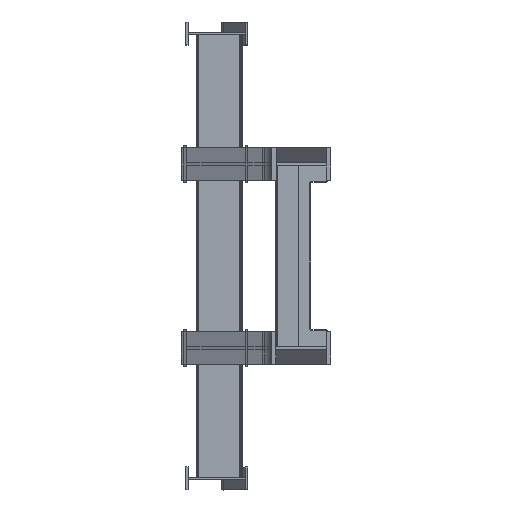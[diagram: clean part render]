
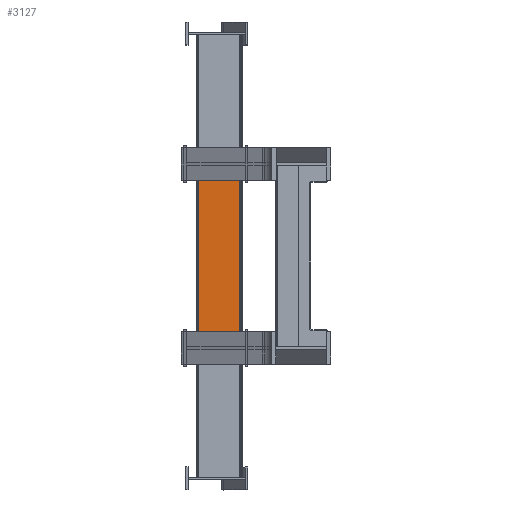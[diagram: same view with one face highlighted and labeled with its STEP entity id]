
A CAD part, front view. The second image highlights one B-rep face of the part: STEP entity #3127.
In plain terms, the highlighted planar face has unit normal (0, -1, 0).
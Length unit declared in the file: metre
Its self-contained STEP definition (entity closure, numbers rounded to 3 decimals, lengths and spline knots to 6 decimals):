
#3127 = ADVANCED_FACE( '', ( #5907 ), #5908, .T. );
#5907 = FACE_OUTER_BOUND( '', #10245, .T. );
#5908 = PLANE( '', #10246 );
#10245 = EDGE_LOOP( '', ( #21044, #21045, #21046, #21047 ) );
#10246 = AXIS2_PLACEMENT_3D( '', #21048, #21049, #21050 );
#21044 = ORIENTED_EDGE( '', *, *, #25091, .T. );
#21045 = ORIENTED_EDGE( '', *, *, #25092, .F. );
#21046 = ORIENTED_EDGE( '', *, *, #25093, .T. );
#21047 = ORIENTED_EDGE( '', *, *, #25088, .T. );
#21048 = CARTESIAN_POINT( '', ( -9.209022, -7.912006, -1.292069 ) );
#21049 = DIRECTION( '', ( 0., -1., 0. ) );
#21050 = DIRECTION( '', ( 0., 0., 1. ) );
#25088 = EDGE_CURVE( '', #30896, #30894, #30897, .T. );
#25091 = EDGE_CURVE( '', #30894, #30901, #30902, .T. );
#25092 = EDGE_CURVE( '', #30903, #30901, #30904, .T. );
#25093 = EDGE_CURVE( '', #30903, #30896, #30905, .T. );
#30894 = VERTEX_POINT( '', #39126 );
#30896 = VERTEX_POINT( '', #39129 );
#30897 = LINE( '', #39130, #39131 );
#30901 = VERTEX_POINT( '', #39137 );
#30902 = LINE( '', #39138, #39139 );
#30903 = VERTEX_POINT( '', #39140 );
#30904 = LINE( '', #39141, #39142 );
#30905 = LINE( '', #39143, #39144 );
#39126 = CARTESIAN_POINT( '', ( -9.209022, -7.911995, -0.790419 ) );
#39129 = CARTESIAN_POINT( '', ( -9.209022, -7.912017, -1.793719 ) );
#39130 = CARTESIAN_POINT( '', ( -9.209022, -7.912017, -1.793719 ) );
#39131 = VECTOR( '', #45152, 1. );
#39137 = CARTESIAN_POINT( '', ( -9.463022, -7.911995, -0.790419 ) );
#39138 = CARTESIAN_POINT( '', ( -9.209022, -7.911995, -0.790419 ) );
#39139 = VECTOR( '', #45155, 1. );
#39140 = CARTESIAN_POINT( '', ( -9.463022, -7.912017, -1.793719 ) );
#39141 = CARTESIAN_POINT( '', ( -9.463022, -7.912017, -1.793719 ) );
#39142 = VECTOR( '', #45156, 1. );
#39143 = CARTESIAN_POINT( '', ( -9.463022, -7.912017, -1.793719 ) );
#39144 = VECTOR( '', #45157, 1. );
#45152 = DIRECTION( '', ( 0., 0., 1. ) );
#45155 = DIRECTION( '', ( -1., 0., 0. ) );
#45156 = DIRECTION( '', ( 0., 0., 1. ) );
#45157 = DIRECTION( '', ( 1., 0., 0. ) );
